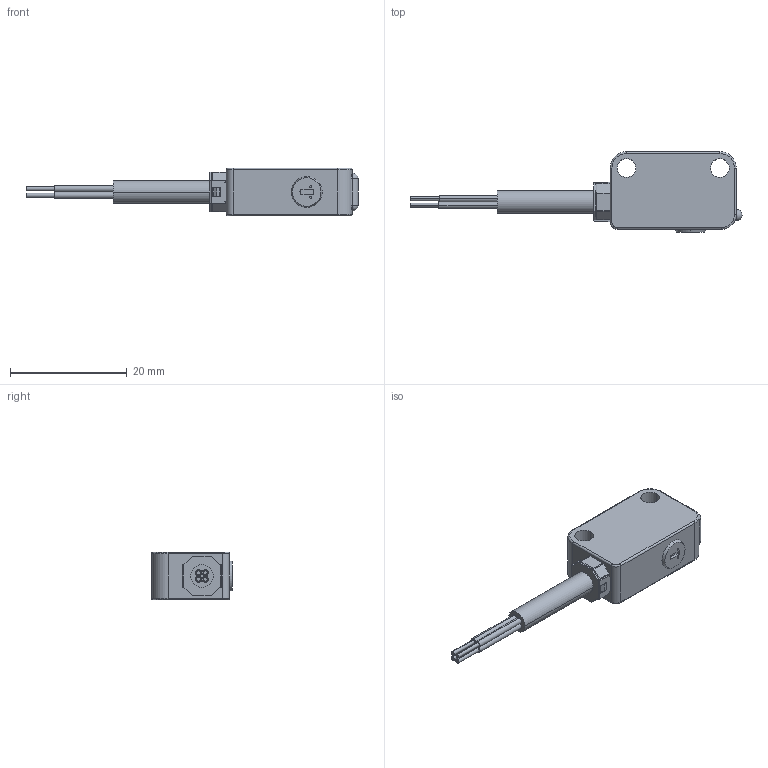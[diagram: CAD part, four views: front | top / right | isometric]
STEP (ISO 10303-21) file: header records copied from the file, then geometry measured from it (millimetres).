
FILE_DESCRIPTION((''),'2;1');
FILE_NAME('YAGAN002-1','2017-09-12T',('Administrator'),(''),'PRO/ENGINEER BY PARAMETRIC TECHNOLOGY CORPORATION, 2015240','PRO/ENGINEER BY PARAMETRIC TECHNOLOGY CORPORATION, 2015240','');
FILE_SCHEMA(('CONFIG_CONTROL_DESIGN'));
Length unit declared in the file: millimetre
Products named in the file (1): YAGAN002-1
Bounding box: 56.94 x 13.8 x 8.2 mm (x, y, z)
Volume: 2460.4 mm3; surface area: 2182.1 mm2
Topology: 2 solids, 6 shells, 285 faces, 722 edges, 452 vertices
Faces by surface type: plane 166, cylinder 95, sphere 10, torus 8, cone 6
Entity records: 8584 total; most frequent: CARTESIAN_POINT 1531, DIRECTION 1485, ORIENTED_EDGE 1440, EDGE_CURVE 720, VECTOR 495, LINE 495, AXIS2_PLACEMENT_3D 495, VERTEX_POINT 452
